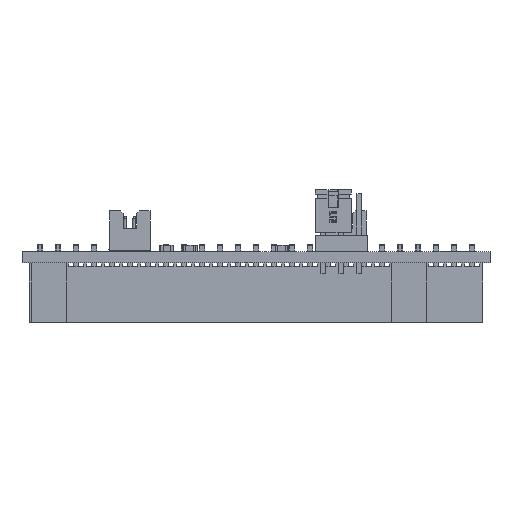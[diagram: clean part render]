
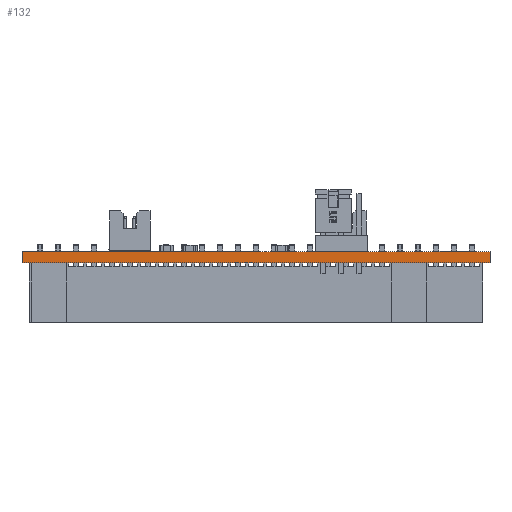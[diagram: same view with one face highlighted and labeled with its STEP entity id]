
A CAD part, front view. The second image highlights one B-rep face of the part: STEP entity #132.
In plain terms, the highlighted planar face has unit normal (0, -1, 0).
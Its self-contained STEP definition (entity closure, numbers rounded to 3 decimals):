
#132 = ADVANCED_FACE('',(#133),#147,.F.);
#133 = FACE_BOUND('',#134,.F.);
#134 = EDGE_LOOP('',(#135,#170,#198,#226));
#135 = ORIENTED_EDGE('',*,*,#136,.T.);
#136 = EDGE_CURVE('',#137,#139,#141,.T.);
#137 = VERTEX_POINT('',#138);
#138 = CARTESIAN_POINT('',(0.,0.,0.));
#139 = VERTEX_POINT('',#140);
#140 = CARTESIAN_POINT('',(0.,0.,1.595));
#141 = SURFACE_CURVE('',#142,(#146,#158),.PCURVE_S1.);
#142 = LINE('',#143,#144);
#143 = CARTESIAN_POINT('',(0.,0.,0.));
#144 = VECTOR('',#145,1.);
#145 = DIRECTION('',(0.,0.,1.));
#146 = PCURVE('',#147,#152);
#147 = PLANE('',#148);
#148 = AXIS2_PLACEMENT_3D('',#149,#150,#151);
#149 = CARTESIAN_POINT('',(0.,0.,0.));
#150 = DIRECTION('',(0.,1.,0.));
#151 = DIRECTION('',(1.,0.,0.));
#152 = DEFINITIONAL_REPRESENTATION('',(#153),#157);
#153 = LINE('',#154,#155);
#154 = CARTESIAN_POINT('',(0.,0.));
#155 = VECTOR('',#156,1.);
#156 = DIRECTION('',(0.,-1.));
#157 = ( GEOMETRIC_REPRESENTATION_CONTEXT(2) 
PARAMETRIC_REPRESENTATION_CONTEXT() REPRESENTATION_CONTEXT('2D SPACE',''
  ) );
#158 = PCURVE('',#159,#164);
#159 = PLANE('',#160);
#160 = AXIS2_PLACEMENT_3D('',#161,#162,#163);
#161 = CARTESIAN_POINT('',(0.,73.66,0.));
#162 = DIRECTION('',(1.,0.,0.));
#163 = DIRECTION('',(0.,-1.,0.));
#164 = DEFINITIONAL_REPRESENTATION('',(#165),#169);
#165 = LINE('',#166,#167);
#166 = CARTESIAN_POINT('',(73.66,0.));
#167 = VECTOR('',#168,1.);
#168 = DIRECTION('',(0.,-1.));
#169 = ( GEOMETRIC_REPRESENTATION_CONTEXT(2) 
PARAMETRIC_REPRESENTATION_CONTEXT() REPRESENTATION_CONTEXT('2D SPACE',''
  ) );
#170 = ORIENTED_EDGE('',*,*,#171,.T.);
#171 = EDGE_CURVE('',#139,#172,#174,.T.);
#172 = VERTEX_POINT('',#173);
#173 = CARTESIAN_POINT('',(66.04,0.,1.595));
#174 = SURFACE_CURVE('',#175,(#179,#186),.PCURVE_S1.);
#175 = LINE('',#176,#177);
#176 = CARTESIAN_POINT('',(0.,0.,1.595));
#177 = VECTOR('',#178,1.);
#178 = DIRECTION('',(1.,0.,0.));
#179 = PCURVE('',#147,#180);
#180 = DEFINITIONAL_REPRESENTATION('',(#181),#185);
#181 = LINE('',#182,#183);
#182 = CARTESIAN_POINT('',(0.,-1.595));
#183 = VECTOR('',#184,1.);
#184 = DIRECTION('',(1.,0.));
#185 = ( GEOMETRIC_REPRESENTATION_CONTEXT(2) 
PARAMETRIC_REPRESENTATION_CONTEXT() REPRESENTATION_CONTEXT('2D SPACE',''
  ) );
#186 = PCURVE('',#187,#192);
#187 = PLANE('',#188);
#188 = AXIS2_PLACEMENT_3D('',#189,#190,#191);
#189 = CARTESIAN_POINT('',(0.,0.,1.595));
#190 = DIRECTION('',(0.,0.,-1.));
#191 = DIRECTION('',(-1.,0.,0.));
#192 = DEFINITIONAL_REPRESENTATION('',(#193),#197);
#193 = LINE('',#194,#195);
#194 = CARTESIAN_POINT('',(0.,0.));
#195 = VECTOR('',#196,1.);
#196 = DIRECTION('',(-1.,0.));
#197 = ( GEOMETRIC_REPRESENTATION_CONTEXT(2) 
PARAMETRIC_REPRESENTATION_CONTEXT() REPRESENTATION_CONTEXT('2D SPACE',''
  ) );
#198 = ORIENTED_EDGE('',*,*,#199,.F.);
#199 = EDGE_CURVE('',#200,#172,#202,.T.);
#200 = VERTEX_POINT('',#201);
#201 = CARTESIAN_POINT('',(66.04,0.,0.));
#202 = SURFACE_CURVE('',#203,(#207,#214),.PCURVE_S1.);
#203 = LINE('',#204,#205);
#204 = CARTESIAN_POINT('',(66.04,0.,0.));
#205 = VECTOR('',#206,1.);
#206 = DIRECTION('',(0.,0.,1.));
#207 = PCURVE('',#147,#208);
#208 = DEFINITIONAL_REPRESENTATION('',(#209),#213);
#209 = LINE('',#210,#211);
#210 = CARTESIAN_POINT('',(66.04,0.));
#211 = VECTOR('',#212,1.);
#212 = DIRECTION('',(0.,-1.));
#213 = ( GEOMETRIC_REPRESENTATION_CONTEXT(2) 
PARAMETRIC_REPRESENTATION_CONTEXT() REPRESENTATION_CONTEXT('2D SPACE',''
  ) );
#214 = PCURVE('',#215,#220);
#215 = PLANE('',#216);
#216 = AXIS2_PLACEMENT_3D('',#217,#218,#219);
#217 = CARTESIAN_POINT('',(66.04,0.,0.));
#218 = DIRECTION('',(-1.,0.,0.));
#219 = DIRECTION('',(0.,1.,0.));
#220 = DEFINITIONAL_REPRESENTATION('',(#221),#225);
#221 = LINE('',#222,#223);
#222 = CARTESIAN_POINT('',(0.,0.));
#223 = VECTOR('',#224,1.);
#224 = DIRECTION('',(0.,-1.));
#225 = ( GEOMETRIC_REPRESENTATION_CONTEXT(2) 
PARAMETRIC_REPRESENTATION_CONTEXT() REPRESENTATION_CONTEXT('2D SPACE',''
  ) );
#226 = ORIENTED_EDGE('',*,*,#227,.F.);
#227 = EDGE_CURVE('',#137,#200,#228,.T.);
#228 = SURFACE_CURVE('',#229,(#233,#240),.PCURVE_S1.);
#229 = LINE('',#230,#231);
#230 = CARTESIAN_POINT('',(0.,0.,0.));
#231 = VECTOR('',#232,1.);
#232 = DIRECTION('',(1.,0.,0.));
#233 = PCURVE('',#147,#234);
#234 = DEFINITIONAL_REPRESENTATION('',(#235),#239);
#235 = LINE('',#236,#237);
#236 = CARTESIAN_POINT('',(0.,0.));
#237 = VECTOR('',#238,1.);
#238 = DIRECTION('',(1.,0.));
#239 = ( GEOMETRIC_REPRESENTATION_CONTEXT(2) 
PARAMETRIC_REPRESENTATION_CONTEXT() REPRESENTATION_CONTEXT('2D SPACE',''
  ) );
#240 = PCURVE('',#241,#246);
#241 = PLANE('',#242);
#242 = AXIS2_PLACEMENT_3D('',#243,#244,#245);
#243 = CARTESIAN_POINT('',(0.,0.,0.));
#244 = DIRECTION('',(0.,0.,-1.));
#245 = DIRECTION('',(-1.,0.,0.));
#246 = DEFINITIONAL_REPRESENTATION('',(#247),#251);
#247 = LINE('',#248,#249);
#248 = CARTESIAN_POINT('',(0.,0.));
#249 = VECTOR('',#250,1.);
#250 = DIRECTION('',(-1.,0.));
#251 = ( GEOMETRIC_REPRESENTATION_CONTEXT(2) 
PARAMETRIC_REPRESENTATION_CONTEXT() REPRESENTATION_CONTEXT('2D SPACE',''
  ) );
